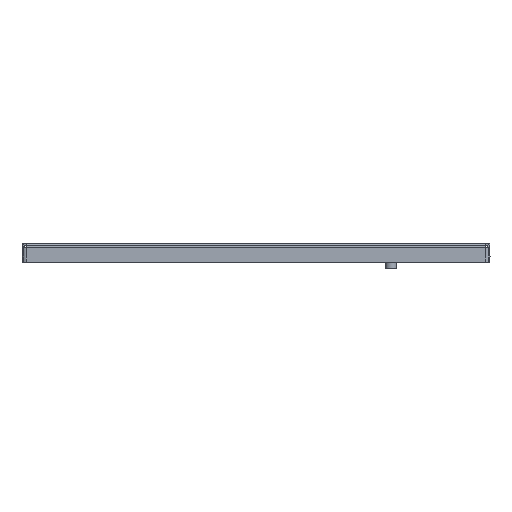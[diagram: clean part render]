
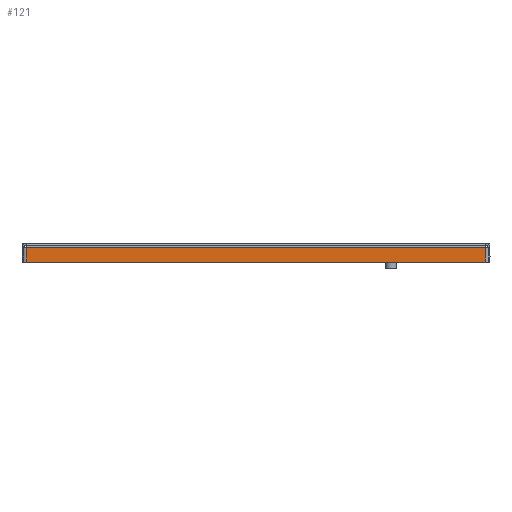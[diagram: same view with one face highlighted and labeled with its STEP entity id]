
A CAD part, left-side view. The second image highlights one B-rep face of the part: STEP entity #121.
In plain terms, the highlighted planar face has unit normal (-1, 0, 0).
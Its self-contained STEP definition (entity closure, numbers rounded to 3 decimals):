
#121=ADVANCED_FACE('',(#2113),#2115,.F.);
#2113=FACE_BOUND('',#2114,.T.);
#2114=EDGE_LOOP('',(#10198,#10199,#10200,#10201));
#2115=PLANE('',#2116);
#2116=AXIS2_PLACEMENT_3D('',#2117,#2118,#2119);
#2117=CARTESIAN_POINT('',(-493.2,0.,0.));
#2118=DIRECTION('',(1.,0.,0.));
#2119=DIRECTION('',(0.,0.,-1.));
#10198=ORIENTED_EDGE('',*,*,#15339,.F.);
#10199=ORIENTED_EDGE('',*,*,#15341,.F.);
#10200=ORIENTED_EDGE('',*,*,#15342,.F.);
#10201=ORIENTED_EDGE('',*,*,#15343,.F.);
#15339=EDGE_CURVE('',#19553,#19546,#19557,.T.);
#15341=EDGE_CURVE('',#19559,#19553,#19560,.T.);
#15342=EDGE_CURVE('',#19561,#19559,#19562,.T.);
#15343=EDGE_CURVE('',#19546,#19561,#19563,.T.);
#19546=VERTEX_POINT('',#27291);
#19553=VERTEX_POINT('',#27311);
#19557=LINE('',#27322,#27323);
#19559=VERTEX_POINT('',#27328);
#19560=LINE('',#27329,#27330);
#19561=VERTEX_POINT('',#27332);
#19562=LINE('',#27333,#27334);
#19563=LINE('',#27336,#27337);
#27291=CARTESIAN_POINT('',(-493.2,-170.3,-3.2));
#27311=CARTESIAN_POINT('',(-493.2,170.3,-3.2));
#27322=CARTESIAN_POINT('',(-493.2,170.3,-3.2));
#27323=VECTOR('',#27324,1.);
#27324=DIRECTION('',(0.,-1.,0.));
#27328=CARTESIAN_POINT('',(-493.2,170.3,-14.));
#27329=CARTESIAN_POINT('',(-493.2,170.3,-14.));
#27330=VECTOR('',#27331,1.);
#27331=DIRECTION('',(0.,0.,1.));
#27332=CARTESIAN_POINT('',(-493.2,-170.3,-14.));
#27333=CARTESIAN_POINT('',(-493.2,-170.3,-14.));
#27334=VECTOR('',#27335,1.);
#27335=DIRECTION('',(0.,1.,0.));
#27336=CARTESIAN_POINT('',(-493.2,-170.3,-3.2));
#27337=VECTOR('',#27338,1.);
#27338=DIRECTION('',(0.,0.,-1.));
